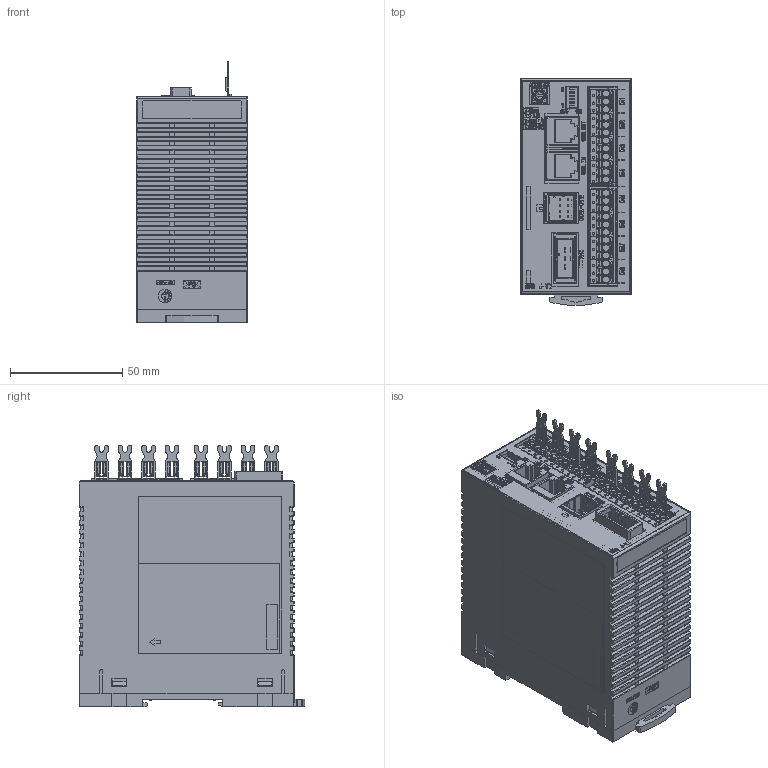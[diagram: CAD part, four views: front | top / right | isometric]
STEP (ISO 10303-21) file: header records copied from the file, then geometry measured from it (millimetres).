
FILE_DESCRIPTION (( 'STEP AP203' ), '1' );
FILE_NAME ('YISRJ-23(0).STEP', '2018-03-29T03:55:26', ( '' ), ( '' ), 'SwSTEP 2.0', 'SolidWorks 2016', '' );
FILE_SCHEMA (( 'CONFIG_CONTROL_DESIGN' ));
Products named in the file (4): KSRZ-54(1)_WEB_デフォルト; 2091-1103_2091-1103; YISRJ-23(0); SRJ(J-TI-C基本設計)_WEB
Assembly tree (10 placements, depth 2):
  YISRJ-23(0)
    SRJ(J-TI-C基本設計)_WEB
    KSRZ-54(1)_WEB_デフォルト
    2091-1103_2091-1103  x8
Bounding box: 49.5 x 100.86 x 116.95 mm (x, y, z)
Volume: 448853.1 mm3; surface area: 78755.5 mm2
Topology: 10 solids, 18 shells, 9334 faces, 25941 edges, 16791 vertices
Faces by surface type: plane 6578, cylinder 1507, bspline 877, cone 194, sphere 152, torus 26
Entity records: 255097 total; most frequent: CARTESIAN_POINT 78091, ORIENTED_EDGE 39382, DIRECTION 31792, EDGE_CURVE 19691, LINE 15946, VECTOR 15946, VERTEX_POINT 12849, AXIS2_PLACEMENT_3D 7923
